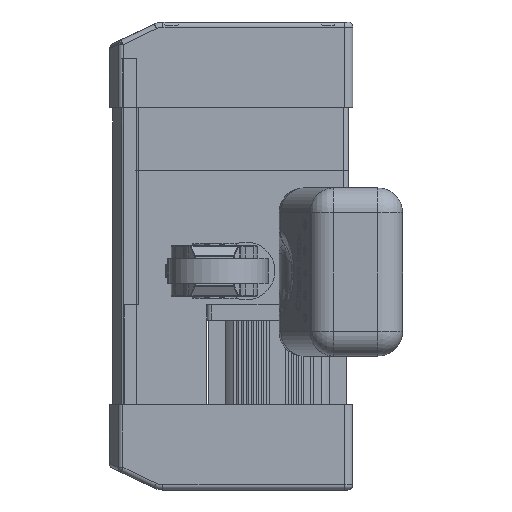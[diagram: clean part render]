
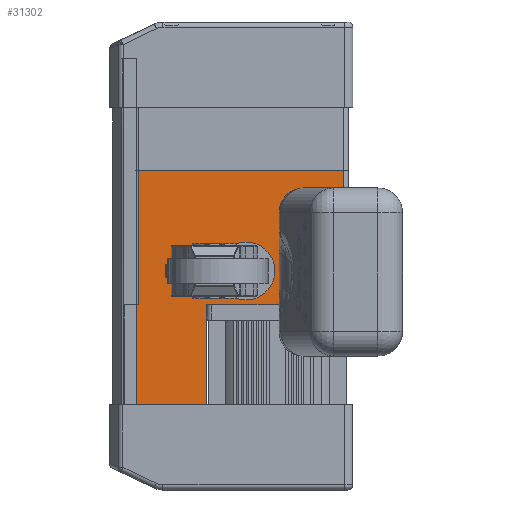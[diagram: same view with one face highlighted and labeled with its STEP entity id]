
A CAD part, front view. The second image highlights one B-rep face of the part: STEP entity #31302.
In plain terms, the highlighted planar face has unit normal (0, -1, 0).
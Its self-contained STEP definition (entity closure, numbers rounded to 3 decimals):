
#975=LINE('',#51635,#3602);
#1026=LINE('',#51780,#3653);
#1027=LINE('',#51783,#3654);
#1028=LINE('',#51784,#3655);
#1029=LINE('',#51786,#3656);
#1030=LINE('',#51797,#3657);
#1031=LINE('',#51799,#3658);
#3602=VECTOR('',#38661,1000.);
#3653=VECTOR('',#38758,1000.);
#3654=VECTOR('',#38759,1000.);
#3655=VECTOR('',#38760,1000.);
#3656=VECTOR('',#38761,1000.);
#3657=VECTOR('',#38762,1000.);
#3658=VECTOR('',#38763,1000.);
#6118=B_SPLINE_CURVE_WITH_KNOTS('',3,(#51775,#51776,#51777,#51778),
 .UNSPECIFIED.,.F.,.F.,(4,4),(0.644,0.668),
 .UNSPECIFIED.);
#6119=B_SPLINE_CURVE_WITH_KNOTS('',3,(#51787,#51788,#51789,#51790),
 .UNSPECIFIED.,.F.,.F.,(4,4),(0.356,1.),.UNSPECIFIED.);
#6120=B_SPLINE_CURVE_WITH_KNOTS('',3,(#51792,#51793,#51794,#51795),
 .UNSPECIFIED.,.F.,.F.,(4,4),(0.,0.986),.UNSPECIFIED.);
#6663=PLANE('',#33974);
#9802=ORIENTED_EDGE('',*,*,#17989,.T.);
#9803=ORIENTED_EDGE('',*,*,#17990,.F.);
#9804=ORIENTED_EDGE('',*,*,#17920,.T.);
#9805=ORIENTED_EDGE('',*,*,#17991,.T.);
#9806=ORIENTED_EDGE('',*,*,#17992,.T.);
#9807=ORIENTED_EDGE('',*,*,#17988,.T.);
#9808=ORIENTED_EDGE('',*,*,#17993,.T.);
#9809=ORIENTED_EDGE('',*,*,#17994,.T.);
#9810=ORIENTED_EDGE('',*,*,#17995,.T.);
#9811=ORIENTED_EDGE('',*,*,#17996,.F.);
#17920=EDGE_CURVE('',#22123,#22122,#975,.T.);
#17988=EDGE_CURVE('',#22179,#22180,#6118,.F.);
#17989=EDGE_CURVE('',#22181,#22182,#1026,.T.);
#17990=EDGE_CURVE('',#22123,#22182,#1027,.T.);
#17991=EDGE_CURVE('',#22122,#22183,#1028,.T.);
#17992=EDGE_CURVE('',#22183,#22179,#1029,.T.);
#17993=EDGE_CURVE('',#22180,#22184,#6119,.T.);
#17994=EDGE_CURVE('',#22184,#22185,#6120,.T.);
#17995=EDGE_CURVE('',#22185,#22186,#1030,.T.);
#17996=EDGE_CURVE('',#22181,#22186,#1031,.F.);
#22122=VERTEX_POINT('',#51634);
#22123=VERTEX_POINT('',#51636);
#22179=VERTEX_POINT('',#51768);
#22180=VERTEX_POINT('',#51774);
#22181=VERTEX_POINT('',#51781);
#22182=VERTEX_POINT('',#51782);
#22183=VERTEX_POINT('',#51785);
#22184=VERTEX_POINT('',#51791);
#22185=VERTEX_POINT('',#51796);
#22186=VERTEX_POINT('',#51798);
#26332=EDGE_LOOP('',(#9802,#9803,#9804,#9805,#9806,#9807,#9808,#9809,#9810,
#9811));
#28557=FACE_BOUND('',#26332,.T.);
#31302=ADVANCED_FACE('',(#28557),#6663,.T.);
#33974=AXIS2_PLACEMENT_3D('',#51779,#38756,#38757);
#38661=DIRECTION('',(0.,0.,-1.));
#38756=DIRECTION('',(0.,-1.,0.));
#38757=DIRECTION('',(1.,0.,0.));
#38758=DIRECTION('',(0.,0.,-1.));
#38759=DIRECTION('',(1.,0.,0.));
#38760=DIRECTION('',(1.,0.,0.));
#38761=DIRECTION('',(0.,0.,1.));
#38762=DIRECTION('',(0.,0.,1.));
#38763=DIRECTION('',(-1.,0.,0.));
#51634=CARTESIAN_POINT('',(-139.392,-738.742,147.427));
#51635=CARTESIAN_POINT('',(-139.392,-738.742,359.427));
#51636=CARTESIAN_POINT('',(-139.392,-738.742,245.927));
#51768=CARTESIAN_POINT('',(-70.,-738.742,245.927));
#51774=CARTESIAN_POINT('',(-65.001,-738.742,245.927));
#51775=CARTESIAN_POINT('',(-65.001,-738.742,245.927));
#51776=CARTESIAN_POINT('',(-66.667,-738.742,245.927));
#51777=CARTESIAN_POINT('',(-68.334,-738.742,245.927));
#51778=CARTESIAN_POINT('',(-70.,-738.742,245.927));
#51779=CARTESIAN_POINT('',(63.,-738.742,227.427));
#51780=CARTESIAN_POINT('',(-137.,-738.742,801.877));
#51781=CARTESIAN_POINT('',(-137.,-738.742,378.927));
#51782=CARTESIAN_POINT('',(-137.,-738.742,245.927));
#51783=CARTESIAN_POINT('',(63.,-738.742,245.927));
#51784=CARTESIAN_POINT('',(63.,-738.742,147.427));
#51785=CARTESIAN_POINT('',(-70.,-738.742,147.427));
#51786=CARTESIAN_POINT('',(-70.,-738.742,227.427));
#51787=CARTESIAN_POINT('',(-65.001,-738.742,245.927));
#51788=CARTESIAN_POINT('',(-21.667,-738.742,245.927));
#51789=CARTESIAN_POINT('',(21.666,-738.742,245.927));
#51790=CARTESIAN_POINT('',(65.,-738.742,245.927));
#51791=CARTESIAN_POINT('',(65.,-738.742,245.927));
#51792=CARTESIAN_POINT('',(65.,-738.742,245.927));
#51793=CARTESIAN_POINT('',(65.,-738.742,280.927));
#51794=CARTESIAN_POINT('',(65.,-738.742,315.927));
#51795=CARTESIAN_POINT('',(65.,-738.742,350.927));
#51796=CARTESIAN_POINT('',(65.,-738.742,350.927));
#51797=CARTESIAN_POINT('',(65.,-738.742,227.427));
#51798=CARTESIAN_POINT('',(65.,-738.742,378.927));
#51799=CARTESIAN_POINT('',(-137.,-738.742,378.927));
